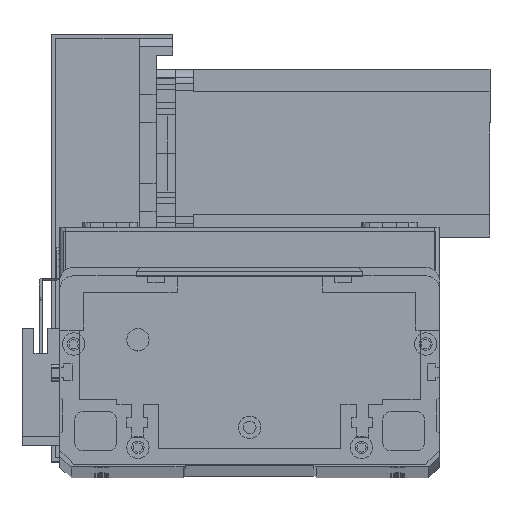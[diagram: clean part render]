
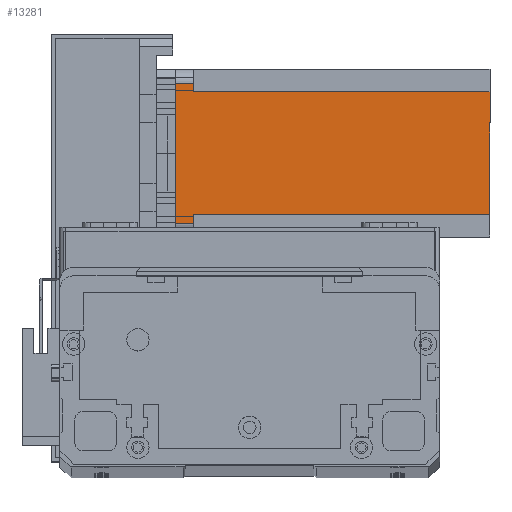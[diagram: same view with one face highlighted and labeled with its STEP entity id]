
A CAD part, top view. The second image highlights one B-rep face of the part: STEP entity #13281.
In plain terms, the highlighted planar face has unit normal (0, 0, 1) as drawn and (0, -1, 0) by its records, which use the part's own axes.
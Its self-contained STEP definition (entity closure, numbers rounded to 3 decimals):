
#134 = DIRECTION ( 'NONE',  ( 0., -1., 0. ) ) ;
#311 = CARTESIAN_POINT ( 'NONE',  ( 8., 0., -112.5 ) ) ;
#611 = DIRECTION ( 'NONE',  ( 1., 0., 0. ) ) ;
#1151 = EDGE_LOOP ( 'NONE', ( #19177, #19554, #10435, #22182, #3461, #21857, #21508, #20804 ) ) ;
#1416 = DIRECTION ( 'NONE',  ( 0., 0., 1. ) ) ;
#1852 = LINE ( 'NONE', #5325, #26072 ) ;
#2365 = EDGE_CURVE ( 'NONE', #18876, #20912, #13499, .T. ) ;
#3422 = VERTEX_POINT ( 'NONE', #9376 ) ;
#3461 = ORIENTED_EDGE ( 'NONE', *, *, #25709, .F. ) ;
#4320 = EDGE_CURVE ( 'NONE', #7953, #12330, #25721, .T. ) ;
#4678 = CARTESIAN_POINT ( 'NONE',  ( 0., 0., 0. ) ) ;
#4845 = CARTESIAN_POINT ( 'NONE',  ( 0., 0., -112.5 ) ) ;
#5325 = CARTESIAN_POINT ( 'NONE',  ( 0., 0., -112.5 ) ) ;
#7184 = EDGE_CURVE ( 'NONE', #7953, #18876, #22003, .T. ) ;
#7355 = CARTESIAN_POINT ( 'NONE',  ( 52., 0., -6.5 ) ) ;
#7819 = VERTEX_POINT ( 'NONE', #311 ) ;
#7953 = VERTEX_POINT ( 'NONE', #7355 ) ;
#8054 = CARTESIAN_POINT ( 'NONE',  ( 55., 0., -112.5 ) ) ;
#8532 = DIRECTION ( 'NONE',  ( 0., 0., 1. ) ) ;
#8917 = LINE ( 'NONE', #24902, #26747 ) ;
#9376 = CARTESIAN_POINT ( 'NONE',  ( 8., 0., -6.5 ) ) ;
#9502 = DIRECTION ( 'NONE',  ( 1., 0., 0. ) ) ;
#9592 = VECTOR ( 'NONE', #23546, 1000. ) ;
#10435 = ORIENTED_EDGE ( 'NONE', *, *, #15673, .F. ) ;
#11201 = FACE_OUTER_BOUND ( 'NONE', #1151, .T. ) ;
#11806 = VERTEX_POINT ( 'NONE', #15259 ) ;
#11812 = VECTOR ( 'NONE', #9502, 1000. ) ;
#12074 = LINE ( 'NONE', #26065, #29880 ) ;
#12330 = VERTEX_POINT ( 'NONE', #21932 ) ;
#13281 = ADVANCED_FACE ( 'NONE', ( #11201 ), #14354, .T. ) ;
#13384 = VECTOR ( 'NONE', #25940, 1000. ) ;
#13499 = LINE ( 'NONE', #8054, #20412 ) ;
#13804 = VERTEX_POINT ( 'NONE', #27393 ) ;
#14354 = PLANE ( 'NONE',  #21144 ) ;
#14837 = EDGE_CURVE ( 'NONE', #7819, #3422, #16568, .T. ) ;
#15259 = CARTESIAN_POINT ( 'NONE',  ( 5., 0., -6.5 ) ) ;
#15673 = EDGE_CURVE ( 'NONE', #13804, #20912, #18003, .T. ) ;
#16006 = CARTESIAN_POINT ( 'NONE',  ( 55., 0., 0. ) ) ;
#16568 = LINE ( 'NONE', #17932, #29666 ) ;
#16677 = DIRECTION ( 'NONE',  ( 0., 0., -1. ) ) ;
#17362 = EDGE_CURVE ( 'NONE', #13804, #11806, #12074, .T. ) ;
#17932 = CARTESIAN_POINT ( 'NONE',  ( 8., 0., -112.5 ) ) ;
#18003 = LINE ( 'NONE', #4678, #11812 ) ;
#18876 = VERTEX_POINT ( 'NONE', #20212 ) ;
#19177 = ORIENTED_EDGE ( 'NONE', *, *, #7184, .T. ) ;
#19554 = ORIENTED_EDGE ( 'NONE', *, *, #2365, .T. ) ;
#20212 = CARTESIAN_POINT ( 'NONE',  ( 55., 0., -6.5 ) ) ;
#20412 = VECTOR ( 'NONE', #8532, 1000. ) ;
#20804 = ORIENTED_EDGE ( 'NONE', *, *, #4320, .F. ) ;
#20912 = VERTEX_POINT ( 'NONE', #16006 ) ;
#21144 = AXIS2_PLACEMENT_3D ( 'NONE', #4845, #134, #16677 ) ;
#21508 = ORIENTED_EDGE ( 'NONE', *, *, #24767, .T. ) ;
#21857 = ORIENTED_EDGE ( 'NONE', *, *, #14837, .F. ) ;
#21932 = CARTESIAN_POINT ( 'NONE',  ( 52., 0., -112.5 ) ) ;
#22003 = LINE ( 'NONE', #22947, #9592 ) ;
#22182 = ORIENTED_EDGE ( 'NONE', *, *, #17362, .T. ) ;
#22673 = DIRECTION ( 'NONE',  ( -1., 0., 0. ) ) ;
#22947 = CARTESIAN_POINT ( 'NONE',  ( 52., 0., -6.5 ) ) ;
#23546 = DIRECTION ( 'NONE',  ( 1., 0., 0. ) ) ;
#23633 = CARTESIAN_POINT ( 'NONE',  ( 52., 0., -112.5 ) ) ;
#24767 = EDGE_CURVE ( 'NONE', #7819, #12330, #1852, .T. ) ;
#24902 = CARTESIAN_POINT ( 'NONE',  ( 8., 0., -6.5 ) ) ;
#25709 = EDGE_CURVE ( 'NONE', #3422, #11806, #8917, .T. ) ;
#25721 = LINE ( 'NONE', #23633, #13384 ) ;
#25940 = DIRECTION ( 'NONE',  ( 0., 0., -1. ) ) ;
#26065 = CARTESIAN_POINT ( 'NONE',  ( 5., 0., -112.5 ) ) ;
#26072 = VECTOR ( 'NONE', #611, 1000. ) ;
#26747 = VECTOR ( 'NONE', #22673, 1000. ) ;
#27393 = CARTESIAN_POINT ( 'NONE',  ( 5., 0., 0. ) ) ;
#28610 = DIRECTION ( 'NONE',  ( 0., 0., -1. ) ) ;
#29666 = VECTOR ( 'NONE', #1416, 1000. ) ;
#29880 = VECTOR ( 'NONE', #28610, 1000. ) ;
